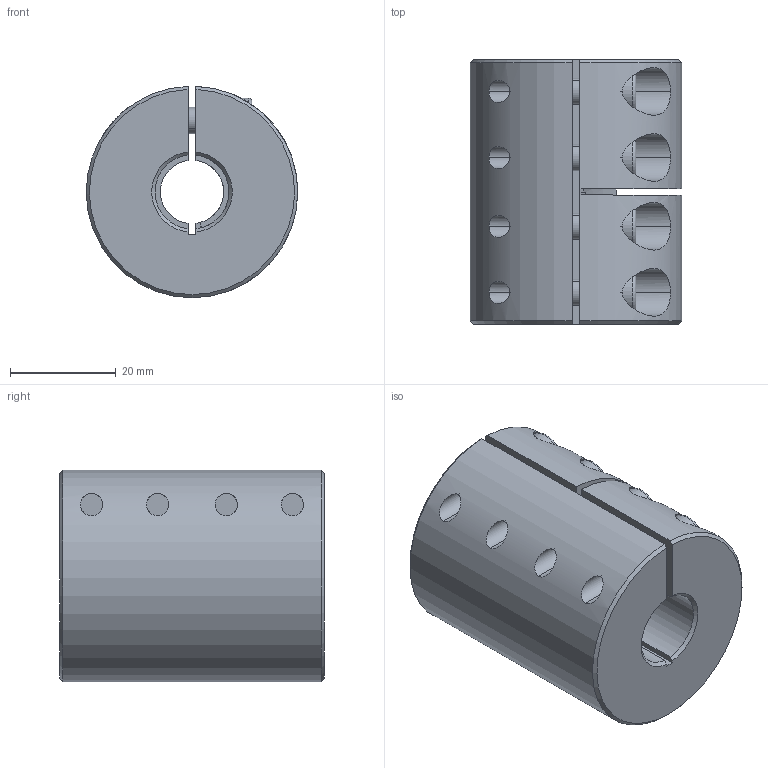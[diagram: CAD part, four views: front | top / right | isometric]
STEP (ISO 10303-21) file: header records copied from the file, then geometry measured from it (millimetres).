
FILE_DESCRIPTION (( 'STEP AP214' ), '1' );
FILE_NAME ('LL-B-D40L50-12-14½¨Ä£.STEP', '2022-07-22T00:21:50', ( '' ), ( '' ), 'SwSTEP 2.0', 'SolidWorks 2022', '' );
FILE_SCHEMA (( 'AUTOMOTIVE_DESIGN' ));
Length unit declared in the file: millimetre
Products named in the file (1): LL-B-D40L50-12-14膘耀
Bounding box: 40 x 50 x 39.99 mm (x, y, z)
Volume: 52961.9 mm3; surface area: 15358.2 mm2
Topology: 1 solids, 1 shells, 182 faces, 463 edges, 291 vertices
Faces by surface type: plane 88, cylinder 71, cone 15, torus 8
Entity records: 6015 total; most frequent: CARTESIAN_POINT 1525, DIRECTION 971, ORIENTED_EDGE 910, EDGE_CURVE 455, AXIS2_PLACEMENT_3D 377, VERTEX_POINT 291, LINE 217, VECTOR 217
